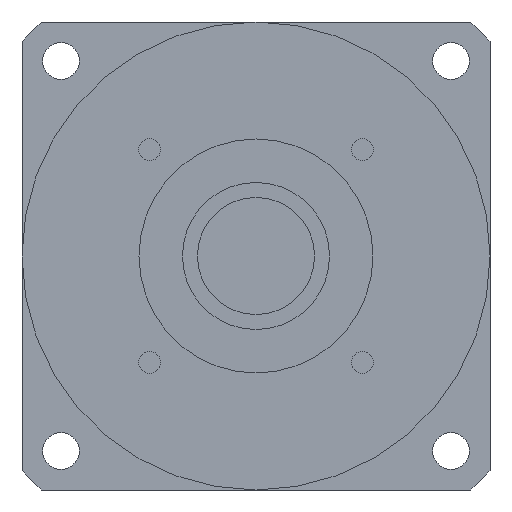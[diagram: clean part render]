
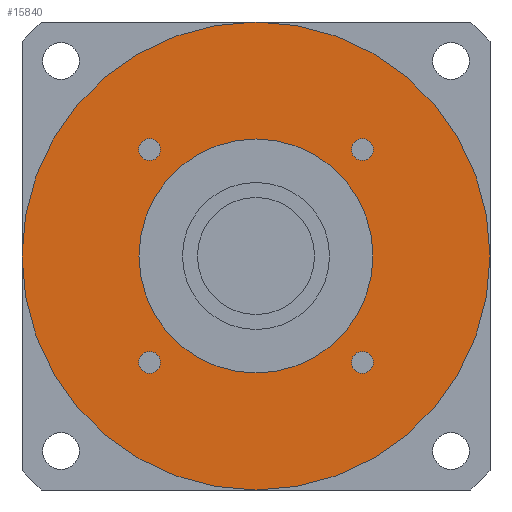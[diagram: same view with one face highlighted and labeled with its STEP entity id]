
A CAD part, left-side view. The second image highlights one B-rep face of the part: STEP entity #15840.
In plain terms, the highlighted planar face has unit normal (-1, 0, 0) as drawn and (0, 0, -1) by its records, which use the part's own axes.
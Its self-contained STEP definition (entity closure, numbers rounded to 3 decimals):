
#14680=CARTESIAN_POINT('',(-70.,0.,-79.7));
#14690=VERTEX_POINT('',#14680);
#14720=CARTESIAN_POINT('',(0.,0.,
-79.7));
#14730=DIRECTION('',(0.,0.,-1.));
#14740=DIRECTION('',(0.,-1.,0.));
#14750=AXIS2_PLACEMENT_3D('',#14720,#14730,#14740);
#14760=CIRCLE('',#14750,70.);
#14770=CARTESIAN_POINT('',(70.,0.,-79.7));
#14780=VERTEX_POINT('',#14770);
#14790=EDGE_CURVE('',#14690,#14780,#14760,.T.);
#14910=CARTESIAN_POINT('',(0.,0.,
-79.7));
#14920=DIRECTION('',(0.,0.,-1.));
#14930=DIRECTION('',(1.,0.,0.));
#14940=AXIS2_PLACEMENT_3D('',#14910,#14920,#14930);
#14950=PLANE('',#14940);
#14960=CARTESIAN_POINT('',(-31.82,31.82,-79.7));
#14970=DIRECTION('',(0.,0.,-1.));
#14980=DIRECTION('',(-1.,0.,0.));
#14990=AXIS2_PLACEMENT_3D('',#14960,#14970,#14980);
#15000=CIRCLE('',#14990,3.25);
#15010=CARTESIAN_POINT('',(-35.07,31.82,-79.7));
#15020=VERTEX_POINT('',#15010);
#15030=CARTESIAN_POINT('',(-28.57,31.82,-79.7));
#15040=VERTEX_POINT('',#15030);
#15050=EDGE_CURVE('',#15020,#15040,#15000,.T.);
#15060=ORIENTED_EDGE('',*,*,#15050,.F.);
#15070=EDGE_CURVE('',#15040,#15020,#15000,.T.);
#15080=ORIENTED_EDGE('',*,*,#15070,.F.);
#15090=EDGE_LOOP('',(#15080,#15060));
#15100=FACE_BOUND('',#15090,.T.);
#15110=CARTESIAN_POINT('',(-31.82,-31.82,-79.7));
#15120=DIRECTION('',(0.,0.,-1.));
#15130=DIRECTION('',(0.,-1.,0.));
#15140=AXIS2_PLACEMENT_3D('',#15110,#15120,#15130);
#15150=CIRCLE('',#15140,3.25);
#15160=CARTESIAN_POINT('',(-31.82,-35.07,-79.7));
#15170=VERTEX_POINT('',#15160);
#15180=CARTESIAN_POINT('',(-31.82,-28.57,-79.7));
#15190=VERTEX_POINT('',#15180);
#15200=EDGE_CURVE('',#15170,#15190,#15150,.T.);
#15210=ORIENTED_EDGE('',*,*,#15200,.F.);
#15220=EDGE_CURVE('',#15190,#15170,#15150,.T.);
#15230=ORIENTED_EDGE('',*,*,#15220,.F.);
#15240=EDGE_LOOP('',(#15230,#15210));
#15250=FACE_BOUND('',#15240,.T.);
#15260=CARTESIAN_POINT('',(0.,0.,
-79.7));
#15270=DIRECTION('',(0.,0.,1.));
#15280=DIRECTION('',(0.,1.,0.));
#15290=AXIS2_PLACEMENT_3D('',#15260,#15270,#15280);
#15300=CIRCLE('',#15290,35.);
#15310=CARTESIAN_POINT('',(-35.,0.,-79.7));
#15320=VERTEX_POINT('',#15310);
#15330=CARTESIAN_POINT('',(35.,0.,-79.7));
#15340=VERTEX_POINT('',#15330);
#15350=EDGE_CURVE('',#15320,#15340,#15300,.T.);
#15360=ORIENTED_EDGE('',*,*,#15350,.T.);
#15370=CARTESIAN_POINT('',(0.,35.,-79.7));
#15380=VERTEX_POINT('',#15370);
#15390=EDGE_CURVE('',#15380,#15320,#15300,.T.);
#15400=ORIENTED_EDGE('',*,*,#15390,.T.);
#15410=EDGE_CURVE('',#15340,#15380,#15300,.T.);
#15420=ORIENTED_EDGE('',*,*,#15410,.T.);
#15430=EDGE_LOOP('',(#15420,#15400,#15360));
#15440=FACE_BOUND('',#15430,.T.);
#15450=CARTESIAN_POINT('',(31.82,-31.82,-79.7));
#15460=DIRECTION('',(0.,0.,-1.));
#15470=DIRECTION('',(1.,0.,0.));
#15480=AXIS2_PLACEMENT_3D('',#15450,#15460,#15470);
#15490=CIRCLE('',#15480,3.25);
#15500=CARTESIAN_POINT('',(35.07,-31.82,-79.7));
#15510=VERTEX_POINT('',#15500);
#15520=CARTESIAN_POINT('',(28.57,-31.82,-79.7));
#15530=VERTEX_POINT('',#15520);
#15540=EDGE_CURVE('',#15510,#15530,#15490,.T.);
#15550=ORIENTED_EDGE('',*,*,#15540,.F.);
#15560=EDGE_CURVE('',#15530,#15510,#15490,.T.);
#15570=ORIENTED_EDGE('',*,*,#15560,.F.);
#15580=EDGE_LOOP('',(#15570,#15550));
#15590=FACE_BOUND('',#15580,.T.);
#15600=CARTESIAN_POINT('',(31.82,31.82,-79.7));
#15610=DIRECTION('',(0.,0.,-1.));
#15620=DIRECTION('',(0.,1.,0.));
#15630=AXIS2_PLACEMENT_3D('',#15600,#15610,#15620);
#15640=CIRCLE('',#15630,3.25);
#15650=CARTESIAN_POINT('',(31.82,35.07,-79.7));
#15660=VERTEX_POINT('',#15650);
#15670=CARTESIAN_POINT('',(31.82,28.57,-79.7));
#15680=VERTEX_POINT('',#15670);
#15690=EDGE_CURVE('',#15660,#15680,#15640,.T.);
#15700=ORIENTED_EDGE('',*,*,#15690,.F.);
#15710=EDGE_CURVE('',#15680,#15660,#15640,.T.);
#15720=ORIENTED_EDGE('',*,*,#15710,.F.);
#15730=EDGE_LOOP('',(#15720,#15700));
#15740=FACE_BOUND('',#15730,.T.);
#15750=ORIENTED_EDGE('',*,*,#14790,.T.);
#15760=CARTESIAN_POINT('',(0.,-70.,-79.7));
#15770=VERTEX_POINT('',#15760);
#15780=EDGE_CURVE('',#15770,#14690,#14760,.T.);
#15790=ORIENTED_EDGE('',*,*,#15780,.T.);
#15800=EDGE_CURVE('',#14780,#15770,#14760,.T.);
#15810=ORIENTED_EDGE('',*,*,#15800,.T.);
#15820=EDGE_LOOP('',(#15810,#15790,#15750));
#15830=FACE_OUTER_BOUND('',#15820,.T.);
#15840=ADVANCED_FACE('',(#15100,#15250,#15440,#15590,#15740,#15830),
#14950,.T.);
